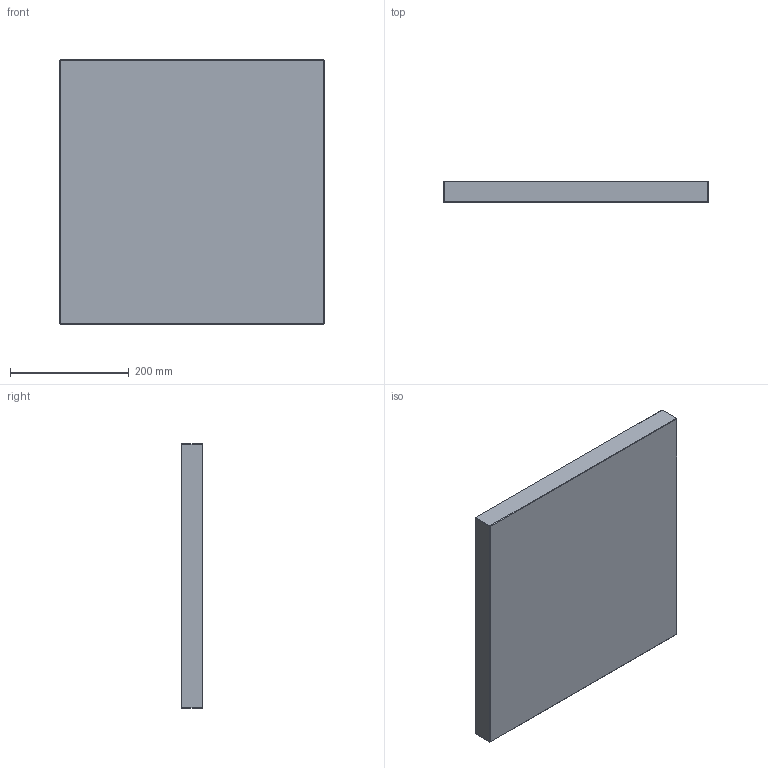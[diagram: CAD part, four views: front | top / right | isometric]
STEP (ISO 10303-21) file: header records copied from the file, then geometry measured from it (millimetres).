
FILE_DESCRIPTION (( 'STEP AP214' ), '1' );
FILE_NAME ('PC-P-446x446x36.STEP', '2020-04-01T11:05:20', ( 'August' ), ( '' ), 'SwSTEP 2.0', 'SolidWorks 2018', '' );
FILE_SCHEMA (( 'AUTOMOTIVE_DESIGN' ));
Length unit declared in the file: millimetre
Products named in the file (1): PC-P-446x446x36
Bounding box: 446 x 36 x 446 mm (x, y, z)
Volume: 7159125.3 mm3; surface area: 459878.5 mm2
Topology: 1 solids, 1 shells, 26 faces, 48 edges, 24 vertices
Faces by surface type: plane 26
Entity records: 634 total; most frequent: DIRECTION 102, CARTESIAN_POINT 99, ORIENTED_EDGE 96, LINE 48, EDGE_CURVE 48, VECTOR 48, AXIS2_PLACEMENT_3D 27, EDGE_LOOP 26
